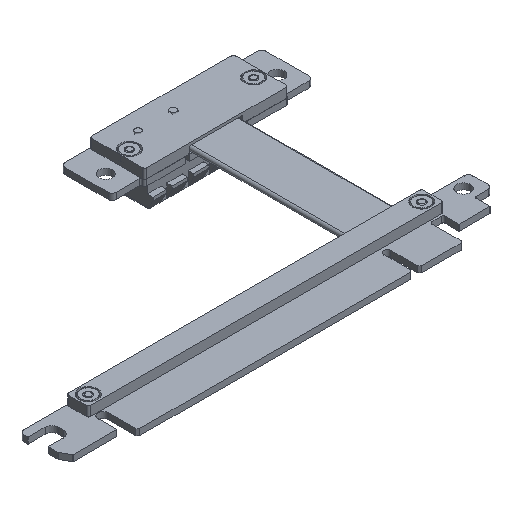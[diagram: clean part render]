
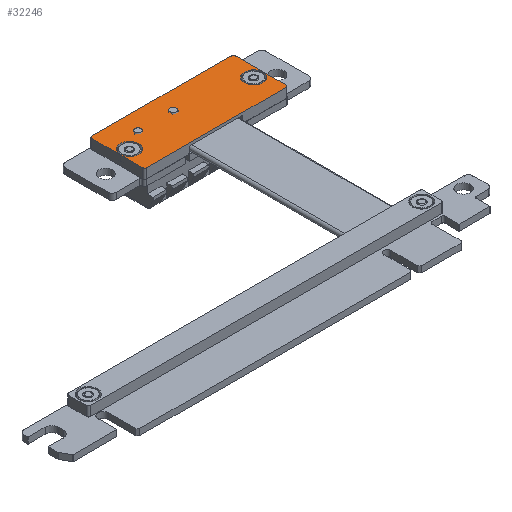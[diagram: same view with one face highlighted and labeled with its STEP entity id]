
A CAD part, isometric view. The second image highlights one B-rep face of the part: STEP entity #32246.
In plain terms, the highlighted planar face has unit normal (0, 0, 1) as drawn and (0, -1, 0) by its records, which use the part's own axes.
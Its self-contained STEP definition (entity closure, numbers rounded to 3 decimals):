
#32246 = ADVANCED_FACE('',(#32247,#32258,#32269),#32339,.F.);
#32247 = FACE_BOUND('',#32248,.T.);
#32248 = EDGE_LOOP('',(#32249));
#32249 = ORIENTED_EDGE('',*,*,#32250,.F.);
#32250 = EDGE_CURVE('',#32251,#32251,#32253,.T.);
#32251 = VERTEX_POINT('',#32252);
#32252 = CARTESIAN_POINT('',(-2.5,0.,5.38));
#32253 = CIRCLE('',#32254,2.4);
#32254 = AXIS2_PLACEMENT_3D('',#32255,#32256,#32257);
#32255 = CARTESIAN_POINT('',(-2.5,0.,7.78));
#32256 = DIRECTION('',(0.,-1.,0.));
#32257 = DIRECTION('',(0.,0.,-1.));
#32258 = FACE_BOUND('',#32259,.T.);
#32259 = EDGE_LOOP('',(#32260));
#32260 = ORIENTED_EDGE('',*,*,#32261,.F.);
#32261 = EDGE_CURVE('',#32262,#32262,#32264,.T.);
#32262 = VERTEX_POINT('',#32263);
#32263 = CARTESIAN_POINT('',(-34.7,0.,5.38));
#32264 = CIRCLE('',#32265,2.4);
#32265 = AXIS2_PLACEMENT_3D('',#32266,#32267,#32268);
#32266 = CARTESIAN_POINT('',(-34.7,0.,7.78));
#32267 = DIRECTION('',(0.,-1.,0.));
#32268 = DIRECTION('',(0.,0.,-1.));
#32269 = FACE_BOUND('',#32270,.T.);
#32270 = EDGE_LOOP('',(#32271,#32281,#32290,#32298,#32307,#32315,#32324,
    #32332));
#32271 = ORIENTED_EDGE('',*,*,#32272,.F.);
#32272 = EDGE_CURVE('',#32273,#32275,#32277,.T.);
#32273 = VERTEX_POINT('',#32274);
#32274 = CARTESIAN_POINT('',(-36.7,0.,14.23));
#32275 = VERTEX_POINT('',#32276);
#32276 = CARTESIAN_POINT('',(-0.5,0.,14.23));
#32277 = LINE('',#32278,#32279);
#32278 = CARTESIAN_POINT('',(-37.2,0.,14.23));
#32279 = VECTOR('',#32280,1.);
#32280 = DIRECTION('',(1.,0.,0.));
#32281 = ORIENTED_EDGE('',*,*,#32282,.T.);
#32282 = EDGE_CURVE('',#32273,#32283,#32285,.T.);
#32283 = VERTEX_POINT('',#32284);
#32284 = CARTESIAN_POINT('',(-37.2,0.,13.73));
#32285 = CIRCLE('',#32286,0.5);
#32286 = AXIS2_PLACEMENT_3D('',#32287,#32288,#32289);
#32287 = CARTESIAN_POINT('',(-36.7,0.,13.73));
#32288 = DIRECTION('',(0.,-1.,0.));
#32289 = DIRECTION('',(0.,0.,1.));
#32290 = ORIENTED_EDGE('',*,*,#32291,.F.);
#32291 = EDGE_CURVE('',#32292,#32283,#32294,.T.);
#32292 = VERTEX_POINT('',#32293);
#32293 = CARTESIAN_POINT('',(-37.2,0.,0.5));
#32294 = LINE('',#32295,#32296);
#32295 = CARTESIAN_POINT('',(-37.2,0.,0.));
#32296 = VECTOR('',#32297,1.);
#32297 = DIRECTION('',(0.,0.,1.));
#32298 = ORIENTED_EDGE('',*,*,#32299,.T.);
#32299 = EDGE_CURVE('',#32292,#32300,#32302,.T.);
#32300 = VERTEX_POINT('',#32301);
#32301 = CARTESIAN_POINT('',(-36.7,0.,0.));
#32302 = CIRCLE('',#32303,0.5);
#32303 = AXIS2_PLACEMENT_3D('',#32304,#32305,#32306);
#32304 = CARTESIAN_POINT('',(-36.7,0.,0.5));
#32305 = DIRECTION('',(0.,-1.,0.));
#32306 = DIRECTION('',(0.,0.,1.));
#32307 = ORIENTED_EDGE('',*,*,#32308,.F.);
#32308 = EDGE_CURVE('',#32309,#32300,#32311,.T.);
#32309 = VERTEX_POINT('',#32310);
#32310 = CARTESIAN_POINT('',(-0.5,0.,0.));
#32311 = LINE('',#32312,#32313);
#32312 = CARTESIAN_POINT('',(0.,0.,0.));
#32313 = VECTOR('',#32314,1.);
#32314 = DIRECTION('',(-1.,0.,0.));
#32315 = ORIENTED_EDGE('',*,*,#32316,.T.);
#32316 = EDGE_CURVE('',#32309,#32317,#32319,.T.);
#32317 = VERTEX_POINT('',#32318);
#32318 = CARTESIAN_POINT('',(0.,0.,0.5));
#32319 = CIRCLE('',#32320,0.5);
#32320 = AXIS2_PLACEMENT_3D('',#32321,#32322,#32323);
#32321 = CARTESIAN_POINT('',(-0.5,0.,0.5));
#32322 = DIRECTION('',(0.,-1.,0.));
#32323 = DIRECTION('',(0.,0.,1.));
#32324 = ORIENTED_EDGE('',*,*,#32325,.F.);
#32325 = EDGE_CURVE('',#32326,#32317,#32328,.T.);
#32326 = VERTEX_POINT('',#32327);
#32327 = CARTESIAN_POINT('',(0.,0.,13.73));
#32328 = LINE('',#32329,#32330);
#32329 = CARTESIAN_POINT('',(0.,0.,14.23));
#32330 = VECTOR('',#32331,1.);
#32331 = DIRECTION('',(0.,0.,-1.));
#32332 = ORIENTED_EDGE('',*,*,#32333,.T.);
#32333 = EDGE_CURVE('',#32326,#32275,#32334,.T.);
#32334 = CIRCLE('',#32335,0.5);
#32335 = AXIS2_PLACEMENT_3D('',#32336,#32337,#32338);
#32336 = CARTESIAN_POINT('',(-0.5,0.,13.73));
#32337 = DIRECTION('',(0.,-1.,0.));
#32338 = DIRECTION('',(0.,0.,1.));
#32339 = PLANE('',#32340);
#32340 = AXIS2_PLACEMENT_3D('',#32341,#32342,#32343);
#32341 = CARTESIAN_POINT('',(0.,0.,0.));
#32342 = DIRECTION('',(0.,1.,0.));
#32343 = DIRECTION('',(0.,0.,1.));
